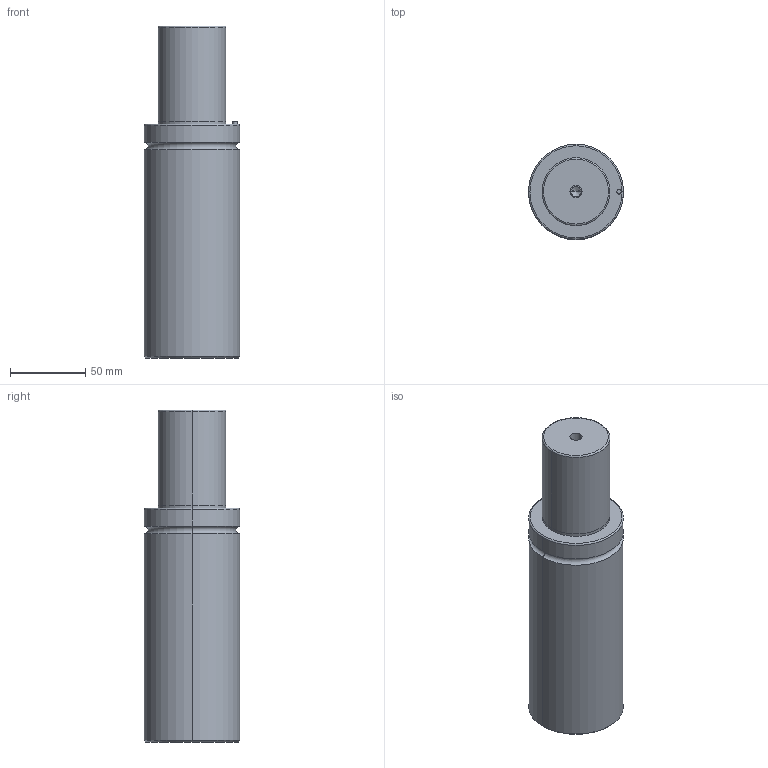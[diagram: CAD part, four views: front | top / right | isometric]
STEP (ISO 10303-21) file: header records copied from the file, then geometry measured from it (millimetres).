
FILE_DESCRIPTION(/* description */ (''),/* implementation_level */ '2;1');
FILE_NAME(/* name */ '3d_gsm63-63_03892_r00.stp',/* time_stamp */ '2011-01-10T14:15:14+09:00',/* author */ ('MISUMI'),/* organization */ (''),/* preprocessor_version */ 'ST-DEVELOPER v11',/* originating_system */ 'UGS - NX 5.0',/* authorisation */ '');
FILE_SCHEMA (('CONFIG_CONTROL_DESIGN'));
Length unit declared in the file: millimetre
Products named in the file (1): 3d_gsm63-63_03892_r00
Bounding box: 63 x 63 x 220 mm (x, y, z)
Volume: 581645.2 mm3; surface area: 47785.8 mm2
Topology: 1 solids, 1 shells, 50 faces, 106 edges, 60 vertices
Faces by surface type: cylinder 26, cone 10, plane 8, torus 6
Entity records: 1382 total; most frequent: DIRECTION 262, CARTESIAN_POINT 209, ORIENTED_EDGE 196, AXIS2_PLACEMENT_3D 113, EDGE_CURVE 98, CIRCLE 62, EDGE_LOOP 60, VERTEX_POINT 60
